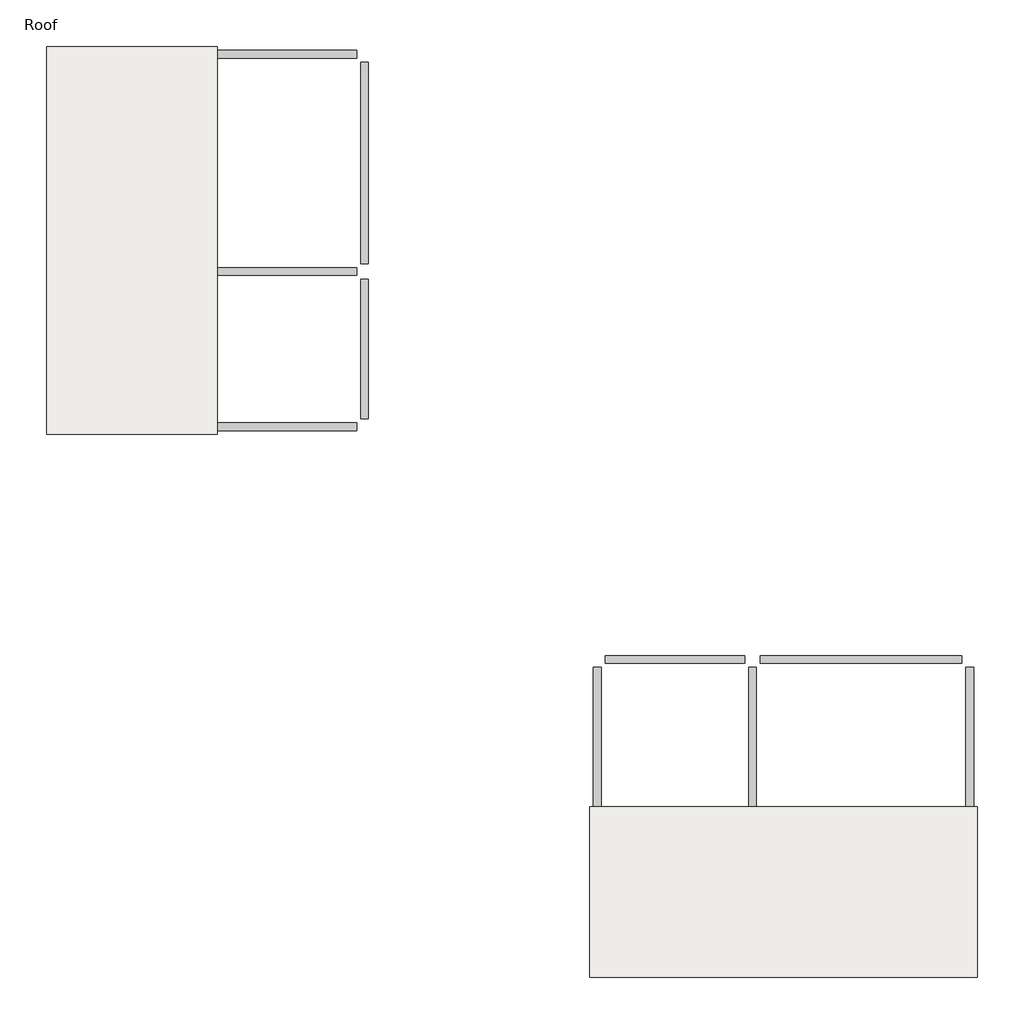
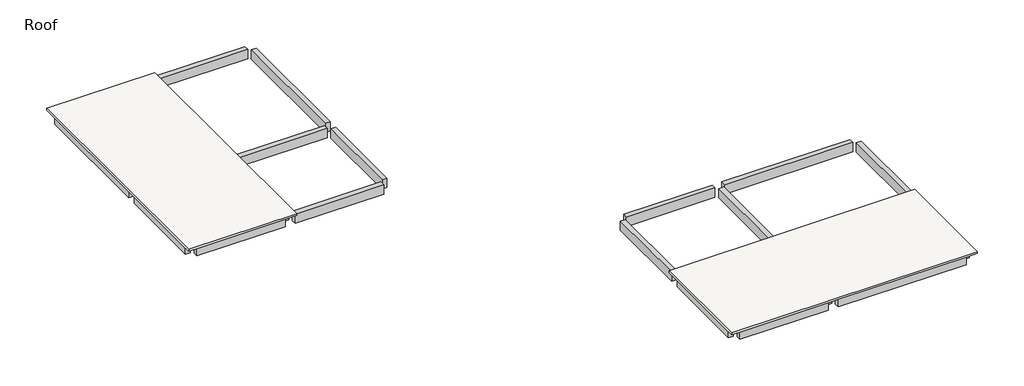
# One storey: 24 beams, 2 slabs.
"""IFC4 building model written with IfcOpenShell, lengths in millimetres."""

from ifc_helpers import new_model, si_unit, frame, origin, place, context, project, spatial, polyline, outline, extrude, faceted_brep, element, save

model = new_model("IFC4")

# Units and contexts
model_context = context("Model", 3, world=origin())
ifc_project = project(units=[si_unit("LENGTHUNIT", "METRE", prefix="MILLI")], contexts=[model_context])

# Site, building, storey
site = spatial("IfcSite", under=ifc_project)
building = spatial("IfcBuilding", under=site)
storey = spatial("IfcBuildingStorey", under=building, Name="Roof", Elevation=7315.2)

# Beams
placement = place(None, origin())
element("IfcBeam", 1, ObjectType="Concrete-Rectangular Beam : 12 x 24", at=placement, inside=storey, context=model_context, shape_type="SweptSolid", body=[
    extrude(outline(polyline([(-26717.2148109, 13379.849478), (-26717.2148109, 13075.049478), (-32203.6148109, 13075.049478), (-32203.6148109, 13379.849478), (-26717.2148109, 13379.849478)])), frame((0.0, 0.0, 6705.6), z_axis=(0.0, 0.0, 1.0), x_axis=(1.0, 0.0, 0.0)), (0.0, 0.0, 1.0), 609.6),
])
element("IfcBeam", 2, ObjectType="Concrete-Rectangular Beam : 12 x 24", at=placement, inside=storey, context=model_context, shape_type="SweptSolid", body=[
    extrude(outline(polyline([(-32813.2148109, 13379.849478), (-32813.2148109, 13075.049478), (-38299.6148109, 13075.049478), (-38299.6148109, 13379.849478), (-32813.2148109, 13379.849478)])), frame((0.0, 0.0, 6705.6), z_axis=(0.0, 0.0, 1.0), x_axis=(1.0, 0.0, 0.0)), (0.0, 0.0, 1.0), 609.6),
])
element("IfcBeam", 3, ObjectType="Concrete-Rectangular Beam : 12 x 24", at=placement, inside=storey, context=model_context, shape_type="SweptSolid", body=[
    extrude(outline(polyline([(-26717.2148109, -1250.550522), (-26717.2148109, -1555.350522), (-32203.6148109, -1555.350522), (-32203.6148109, -1250.550522), (-26717.2148109, -1250.550522)])), frame((0.0, 0.0, 6705.6), z_axis=(0.0, 0.0, 1.0), x_axis=(1.0, 0.0, 0.0)), (0.0, 0.0, 1.0), 609.6),
])
element("IfcBeam", 4, ObjectType="Concrete-Rectangular Beam : 12 x 24", at=placement, inside=storey, context=model_context, shape_type="SweptSolid", body=[
    extrude(outline(polyline([(-32813.2148109, -1250.550522), (-32813.2148109, -1555.350522), (-38299.6148109, -1555.350522), (-38299.6148109, -1250.550522), (-32813.2148109, -1250.550522)])), frame((0.0, 0.0, 6705.6), z_axis=(0.0, 0.0, 1.0), x_axis=(1.0, 0.0, 0.0)), (0.0, 0.0, 1.0), 609.6),
])
element("IfcBeam", 5, ObjectType="Concrete-Rectangular Beam : 12 x 24", at=placement, inside=storey, context=model_context, shape_type="SweptSolid", body=[
    extrude(outline(polyline([(-26717.2148109, 4845.449478), (-26717.2148109, 4540.649478), (-32203.6148109, 4540.649478), (-32203.6148109, 4845.449478), (-26717.2148109, 4845.449478)])), frame((0.0, 0.0, 6705.6), z_axis=(0.0, 0.0, 1.0), x_axis=(1.0, 0.0, 0.0)), (0.0, 0.0, 1.0), 609.6),
])
element("IfcBeam", 6, ObjectType="Concrete-Rectangular Beam : 12 x 24", at=placement, inside=storey, context=model_context, shape_type="SweptSolid", body=[
    extrude(outline(polyline([(-32813.2148109, 4845.449478), (-32813.2148109, 4540.649478), (-38299.6148109, 4540.649478), (-38299.6148109, 4845.449478), (-32813.2148109, 4845.449478)])), frame((0.0, 0.0, 6705.6), z_axis=(0.0, 0.0, 1.0), x_axis=(1.0, 0.0, 0.0)), (0.0, 0.0, 1.0), 609.6),
])
element("IfcBeam", 7, ObjectType="Concrete-Rectangular Beam : 12 x 24", at=placement, inside=storey, context=model_context, shape_type="SweptSolid", body=[
    extrude(outline(polyline([(-26260.0148109, -1098.150522), (-26564.8148109, -1098.150522), (-26564.8148109, 4388.249478), (-26260.0148109, 4388.249478), (-26260.0148109, -1098.150522)])), frame((0.0, 0.0, 6705.6), z_axis=(0.0, 0.0, 1.0), x_axis=(1.0, 0.0, 0.0)), (0.0, 0.0, 1.0), 609.6),
])
element("IfcBeam", 8, ObjectType="Concrete-Rectangular Beam : 12 x 24", at=placement, inside=storey, context=model_context, shape_type="SweptSolid", body=[
    extrude(outline(polyline([(-26260.0148109, 4997.849478), (-26564.8148109, 4997.849478), (-26564.8148109, 12922.649478), (-26260.0148109, 12922.649478), (-26260.0148109, 4997.849478)])), frame((0.0, 0.0, 6705.6), z_axis=(0.0, 0.0, 1.0), x_axis=(1.0, 0.0, 0.0)), (0.0, 0.0, 1.0), 609.6),
])
element("IfcBeam", 9, ObjectType="Concrete-Rectangular Beam : 12 x 24", at=placement, inside=storey, context=model_context, shape_type="SweptSolid", body=[
    extrude(outline(polyline([(-32356.0148109, -1098.150522), (-32660.8148109, -1098.150522), (-32660.8148109, 4388.249478), (-32356.0148109, 4388.249478), (-32356.0148109, -1098.150522)])), frame((0.0, 0.0, 6705.6), z_axis=(0.0, 0.0, 1.0), x_axis=(1.0, 0.0, 0.0)), (0.0, 0.0, 1.0), 609.6),
])
element("IfcBeam", 10, ObjectType="Concrete-Rectangular Beam : 12 x 24", at=placement, inside=storey, context=model_context, shape_type="SweptSolid", body=[
    extrude(outline(polyline([(-32356.0148109, 4997.849478), (-32660.8148109, 4997.849478), (-32660.8148109, 12922.649478), (-32356.0148109, 12922.649478), (-32356.0148109, 4997.849478)])), frame((0.0, 0.0, 6705.6), z_axis=(0.0, 0.0, 1.0), x_axis=(1.0, 0.0, 0.0)), (0.0, 0.0, 1.0), 609.6),
])
element("IfcBeam", 11, ObjectType="Concrete-Rectangular Beam : 12 x 24", at=placement, inside=storey, context=model_context, shape_type="SweptSolid", body=[
    extrude(outline(polyline([(-38452.0148109, -1098.150522), (-38756.8148109, -1098.150522), (-38756.8148109, 4388.249478), (-38452.0148109, 4388.249478), (-38452.0148109, -1098.150522)])), frame((0.0, 0.0, 6705.6), z_axis=(0.0, 0.0, 1.0), x_axis=(1.0, 0.0, 0.0)), (0.0, 0.0, 1.0), 609.6),
])
element("IfcBeam", 12, ObjectType="Concrete-Rectangular Beam : 12 x 24", at=placement, inside=storey, context=model_context, shape_type="SweptSolid", body=[
    extrude(outline(polyline([(-38452.0148109, 4997.849478), (-38756.8148109, 4997.849478), (-38756.8148109, 12922.649478), (-38452.0148109, 12922.649478), (-38452.0148109, 4997.849478)])), frame((0.0, 0.0, 6705.6), z_axis=(0.0, 0.0, 1.0), x_axis=(1.0, 0.0, 0.0)), (0.0, 0.0, 1.0), 609.6),
])
element("IfcBeam", 13, ObjectType="Concrete-Rectangular Beam : 12 x 24", at=placement, inside=storey, context=model_context, shape_type="SweptSolid", body=[
    extrude(outline(polyline([(-2790.4148109, -10851.750522), (-2485.6148109, -10851.750522), (-2485.6148109, -16338.150522), (-2790.4148109, -16338.150522), (-2790.4148109, -10851.750522)])), frame((0.0, 0.0, 6705.6), z_axis=(0.0, 0.0, 1.0), x_axis=(1.0, 0.0, 0.0)), (0.0, 0.0, 1.0), 609.6),
])
element("IfcBeam", 14, ObjectType="Concrete-Rectangular Beam : 12 x 24", at=placement, inside=storey, context=model_context, shape_type="SweptSolid", body=[
    extrude(outline(polyline([(-2790.4148109, -16947.750522), (-2485.6148109, -16947.750522), (-2485.6148109, -22434.150522), (-2790.4148109, -22434.150522), (-2790.4148109, -16947.750522)])), frame((0.0, 0.0, 6705.6), z_axis=(0.0, 0.0, 1.0), x_axis=(1.0, 0.0, 0.0)), (0.0, 0.0, 1.0), 609.6),
])
element("IfcBeam", 15, ObjectType="Concrete-Rectangular Beam : 12 x 24", at=placement, inside=storey, context=model_context, shape_type="SweptSolid", body=[
    extrude(outline(polyline([(-17420.8148109, -10851.750522), (-17116.0148109, -10851.750522), (-17116.0148109, -16338.150522), (-17420.8148109, -16338.150522), (-17420.8148109, -10851.750522)])), frame((0.0, 0.0, 6705.6), z_axis=(0.0, 0.0, 1.0), x_axis=(1.0, 0.0, 0.0)), (0.0, 0.0, 1.0), 609.6),
])
element("IfcBeam", 16, ObjectType="Concrete-Rectangular Beam : 12 x 24", at=placement, inside=storey, context=model_context, shape_type="SweptSolid", body=[
    extrude(outline(polyline([(-17420.8148109, -16947.750522), (-17116.0148109, -16947.750522), (-17116.0148109, -22434.150522), (-17420.8148109, -22434.150522), (-17420.8148109, -16947.750522)])), frame((0.0, 0.0, 6705.6), z_axis=(0.0, 0.0, 1.0), x_axis=(1.0, 0.0, 0.0)), (0.0, 0.0, 1.0), 609.6),
])
element("IfcBeam", 17, ObjectType="Concrete-Rectangular Beam : 12 x 24", at=placement, inside=storey, context=model_context, shape_type="SweptSolid", body=[
    extrude(outline(polyline([(-11324.8148109, -10851.750522), (-11020.0148109, -10851.750522), (-11020.0148109, -16338.150522), (-11324.8148109, -16338.150522), (-11324.8148109, -10851.750522)])), frame((0.0, 0.0, 6705.6), z_axis=(0.0, 0.0, 1.0), x_axis=(1.0, 0.0, 0.0)), (0.0, 0.0, 1.0), 609.6),
])
element("IfcBeam", 18, ObjectType="Concrete-Rectangular Beam : 12 x 24", at=placement, inside=storey, context=model_context, shape_type="SweptSolid", body=[
    extrude(outline(polyline([(-11324.8148109, -16947.750522), (-11020.0148109, -16947.750522), (-11020.0148109, -22434.150522), (-11324.8148109, -22434.150522), (-11324.8148109, -16947.750522)])), frame((0.0, 0.0, 6705.6), z_axis=(0.0, 0.0, 1.0), x_axis=(1.0, 0.0, 0.0)), (0.0, 0.0, 1.0), 609.6),
])
element("IfcBeam", 19, ObjectType="Concrete-Rectangular Beam : 12 x 24", at=placement, inside=storey, context=model_context, shape_type="SweptSolid", body=[
    extrude(outline(polyline([(-16963.6148109, -10699.350522), (-16963.6148109, -10394.550522), (-11477.2148109, -10394.550522), (-11477.2148109, -10699.350522), (-16963.6148109, -10699.350522)])), frame((0.0, 0.0, 6705.6), z_axis=(0.0, 0.0, 1.0), x_axis=(1.0, 0.0, 0.0)), (0.0, 0.0, 1.0), 609.6),
])
element("IfcBeam", 20, ObjectType="Concrete-Rectangular Beam : 12 x 24", at=placement, inside=storey, context=model_context, shape_type="SweptSolid", body=[
    extrude(outline(polyline([(-10867.6148109, -10699.350522), (-10867.6148109, -10394.550522), (-2942.8148109, -10394.550522), (-2942.8148109, -10699.350522), (-10867.6148109, -10699.350522)])), frame((0.0, 0.0, 6705.6), z_axis=(0.0, 0.0, 1.0), x_axis=(1.0, 0.0, 0.0)), (0.0, 0.0, 1.0), 609.6),
])
element("IfcBeam", 21, ObjectType="Concrete-Rectangular Beam : 12 x 24", at=placement, inside=storey, context=model_context, shape_type="SweptSolid", body=[
    extrude(outline(polyline([(-16963.6148109, -16795.350522), (-16963.6148109, -16490.550522), (-11477.2148109, -16490.550522), (-11477.2148109, -16795.350522), (-16963.6148109, -16795.350522)])), frame((0.0, 0.0, 6705.6), z_axis=(0.0, 0.0, 1.0), x_axis=(1.0, 0.0, 0.0)), (0.0, 0.0, 1.0), 609.6),
])
element("IfcBeam", 22, ObjectType="Concrete-Rectangular Beam : 12 x 24", at=placement, inside=storey, context=model_context, shape_type="SweptSolid", body=[
    extrude(outline(polyline([(-10867.6148109, -16795.350522), (-10867.6148109, -16490.550522), (-2942.8148109, -16490.550522), (-2942.8148109, -16795.350522), (-10867.6148109, -16795.350522)])), frame((0.0, 0.0, 6705.6), z_axis=(0.0, 0.0, 1.0), x_axis=(1.0, 0.0, 0.0)), (0.0, 0.0, 1.0), 609.6),
])
element("IfcBeam", 23, ObjectType="Concrete-Rectangular Beam : 12 x 24", at=placement, inside=storey, context=model_context, shape_type="SweptSolid", body=[
    extrude(outline(polyline([(-16963.6148109, -22891.350522), (-16963.6148109, -22586.550522), (-11477.2148109, -22586.550522), (-11477.2148109, -22891.350522), (-16963.6148109, -22891.350522)])), frame((0.0, 0.0, 6705.6), z_axis=(0.0, 0.0, 1.0), x_axis=(1.0, 0.0, 0.0)), (0.0, 0.0, 1.0), 609.6),
])
element("IfcBeam", 24, ObjectType="Concrete-Rectangular Beam : 12 x 24", at=placement, inside=storey, context=model_context, shape_type="SweptSolid", body=[
    extrude(outline(polyline([(-10867.6148109, -22891.350522), (-10867.6148109, -22586.550522), (-2942.8148109, -22586.550522), (-2942.8148109, -22891.350522), (-10867.6148109, -22891.350522)])), frame((0.0, 0.0, 6705.6), z_axis=(0.0, 0.0, 1.0), x_axis=(1.0, 0.0, 0.0)), (0.0, 0.0, 1.0), 609.6),
])

# Slabs
element("IfcSlab", 25, ObjectType="LW Concrete on Metal Deck", at=placement, inside=storey, context=model_context, shape_type="Brep", body=[
    faceted_brep([(-32203.6148109, 13532.249478, 7315.2), (-32203.6148109, 12922.649478, 7315.2), (-32203.6148109, 4997.849478, 7315.2), (-32203.6148109, 4388.249478, 7315.2), (-32203.6148109, -1098.150522, 7315.2), (-32203.6148109, -1707.750522, 7315.2), (-32813.2148109, -1707.750522, 7315.2), (-38299.6148109, -1707.750522, 7315.2), (-38909.2148109, -1707.750522, 7315.2), (-38909.2148109, -1098.150522, 7315.2), (-38909.2148109, 4388.249478, 7315.2), (-38909.2148109, 4997.849478, 7315.2), (-38909.2148109, 12922.649478, 7315.2), (-38909.2148109, 13532.249478, 7315.2), (-38299.6148109, 13532.249478, 7315.2), (-32813.2148109, 13532.249478, 7315.2), (-32203.6148109, 13532.249478, 7435.85), (-38909.2148109, 13532.249478, 7435.85), (-38909.2148109, -1707.750522, 7435.85), (-32203.6148109, -1707.750522, 7435.85)], [[[0, 1, 2, 3, 4, 5, 6, 7, 8, 9, 10, 11, 12, 13, 14, 15]], [[16, 17, 18, 19]], [[5, 4, 3, 2, 1, 0, 16, 19]], [[8, 7, 6, 5, 19, 18]], [[13, 12, 11, 10, 9, 8, 18, 17]], [[0, 15, 14, 13, 17, 16]]]),
])
element("IfcSlab", 26, ObjectType="LW Concrete on Metal Deck", at=placement, inside=storey, context=model_context, shape_type="Brep", body=[
    faceted_brep([(-2333.2148109, -16338.150522, 7315.2), (-2333.2148109, -16947.750522, 7315.2), (-2333.2148109, -22434.150522, 7315.2), (-2333.2148109, -23043.750522, 7315.2), (-2942.8148109, -23043.750522, 7315.2), (-10867.6148109, -23043.750522, 7315.2), (-11477.2148109, -23043.750522, 7315.2), (-16963.6148109, -23043.750522, 7315.2), (-17573.2148109, -23043.750522, 7315.2), (-17573.2148109, -22434.150522, 7315.2), (-17573.2148109, -16947.750522, 7315.2), (-17573.2148109, -16338.150522, 7315.2), (-16963.6148109, -16338.150522, 7315.2), (-11477.2148109, -16338.150522, 7315.2), (-10867.6148109, -16338.150522, 7315.2), (-2942.8148109, -16338.150522, 7315.2), (-2333.2148109, -16338.150522, 7435.85), (-17573.2148109, -16338.150522, 7435.85), (-17573.2148109, -23043.750522, 7435.85), (-2333.2148109, -23043.750522, 7435.85)], [[[0, 1, 2, 3, 4, 5, 6, 7, 8, 9, 10, 11, 12, 13, 14, 15]], [[16, 17, 18, 19]], [[0, 15, 14, 13, 12, 11, 17, 16]], [[11, 10, 9, 8, 18, 17]], [[8, 7, 6, 5, 4, 3, 19, 18]], [[3, 2, 1, 0, 16, 19]]]),
])

save(model, "model.ifc")
